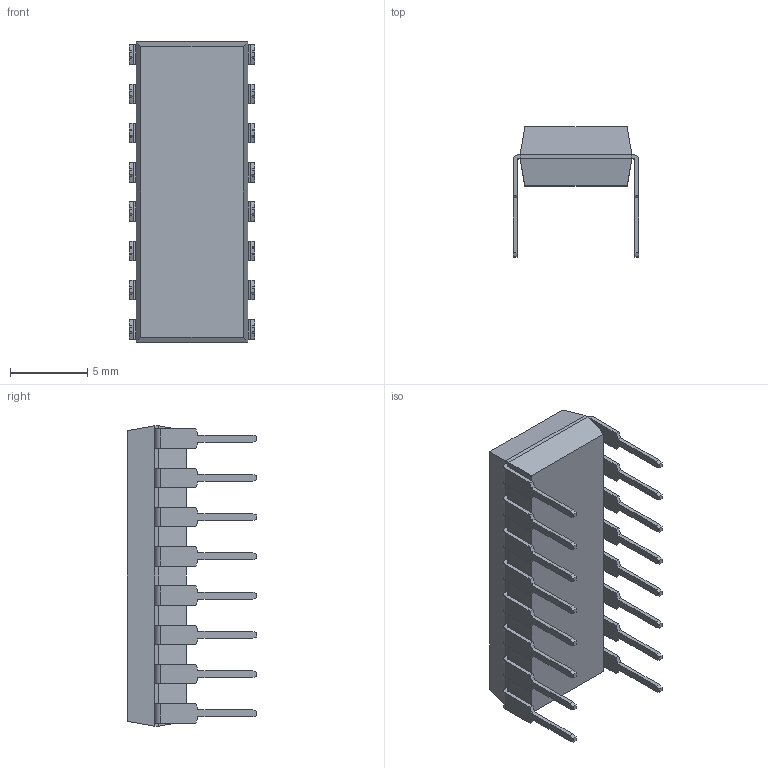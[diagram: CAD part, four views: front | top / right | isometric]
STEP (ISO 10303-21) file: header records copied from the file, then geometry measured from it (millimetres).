
FILE_DESCRIPTION (( 'STEP AP214' ), '1' );
FILE_NAME ('ADM1181AAN.STEP', '2022-09-20T18:17:06', ( '' ), ( '' ), 'SwSTEP 2.0', 'SolidWorks 2017', '' );
FILE_SCHEMA (( 'AUTOMOTIVE_DESIGN' ));
Length unit declared in the file: inch
Products named in the file (1): ADM1181AAN
Bounding box: 8.13 x 8.38 x 19.43 mm (x, y, z)
Volume: 526.4 mm3; surface area: 688.1 mm2
Topology: 18 solids, 18 shells, 315 faces, 822 edges, 544 vertices
Faces by surface type: plane 277, cylinder 38
Entity records: 9743 total; most frequent: CARTESIAN_POINT 1682, ORIENTED_EDGE 1644, DIRECTION 1530, EDGE_CURVE 822, LINE 746, VECTOR 746, VERTEX_POINT 544, AXIS2_PLACEMENT_3D 392
